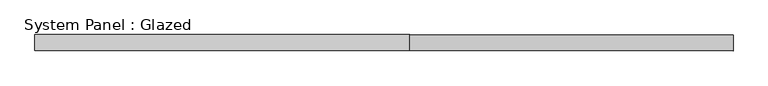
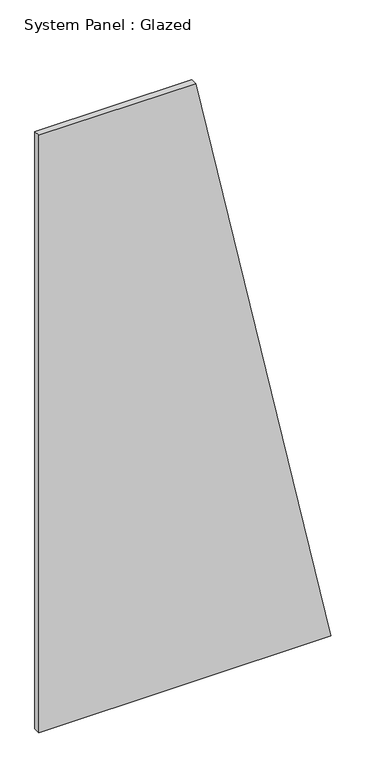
"""IFC4 building model written with IfcOpenShell, lengths in millimetres: plate geometry, System Panel : Glazed."""

from ifc_helpers import new_model, si_unit, frame, origin, place, context, project, spatial, polyline, outline, extrude, source, transform, mapped, element, save


def system_panel_glazed_6666598a(model_context):
    return source(origin(), model_context, "Body", "SweptSolid", [
        extrude(outline(polyline([(0.0, -542.7548446), (0.0, 542.7548446), (2350.0, 40.2287753), (2350.0, -542.7548446), (0.0, -542.7548446)])), frame((0.0, -49.5, 0.0), z_axis=(0.0, 1.0, 0.0), x_axis=(0.0, 0.0, 1.0)), (0.0, 0.0, 1.0), 25.0),
    ])


if __name__ == "__main__":
    model = new_model("IFC4")
    model_context = context("Model", 3, world=origin())
    ifc_project = project(units=[si_unit("LENGTHUNIT", "METRE", prefix="MILLI")], contexts=[model_context])
    site = spatial("IfcSite", under=ifc_project)
    building = spatial("IfcBuilding", under=site)
    placement = place(None, origin())
    system_panel_glazed_shape = system_panel_glazed_6666598a(model_context)
    element("IfcPlate", 1, ObjectType="System Panel : Glazed", at=placement, inside=building, context=model_context, shape_type="MappedRepresentation", body=[
        mapped(system_panel_glazed_shape, transform((0.0, 0.0, 0.0), x_axis=(1.0, 0.0, 0.0), y_axis=(0.0, 1.0, 0.0), z_axis=(0.0, 0.0, 1.0))),
    ])
    save(model, "model.ifc")
